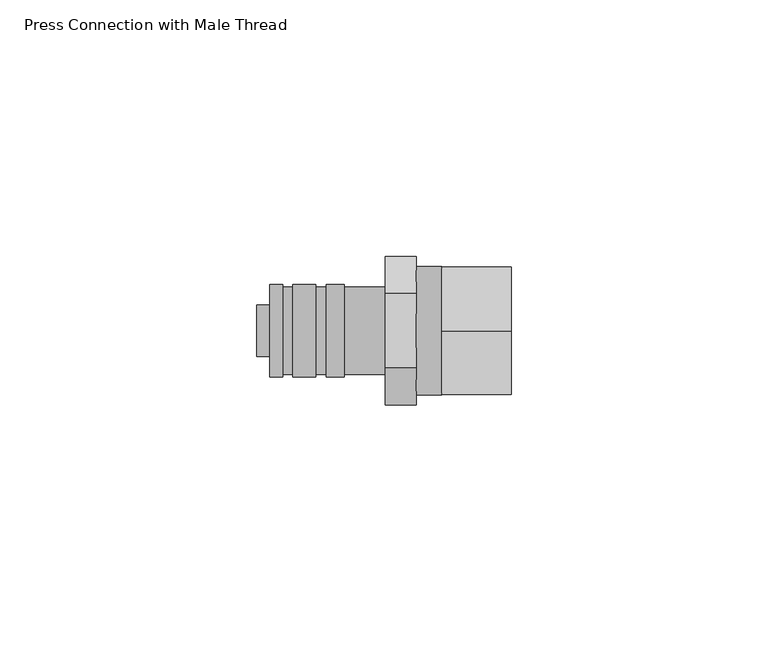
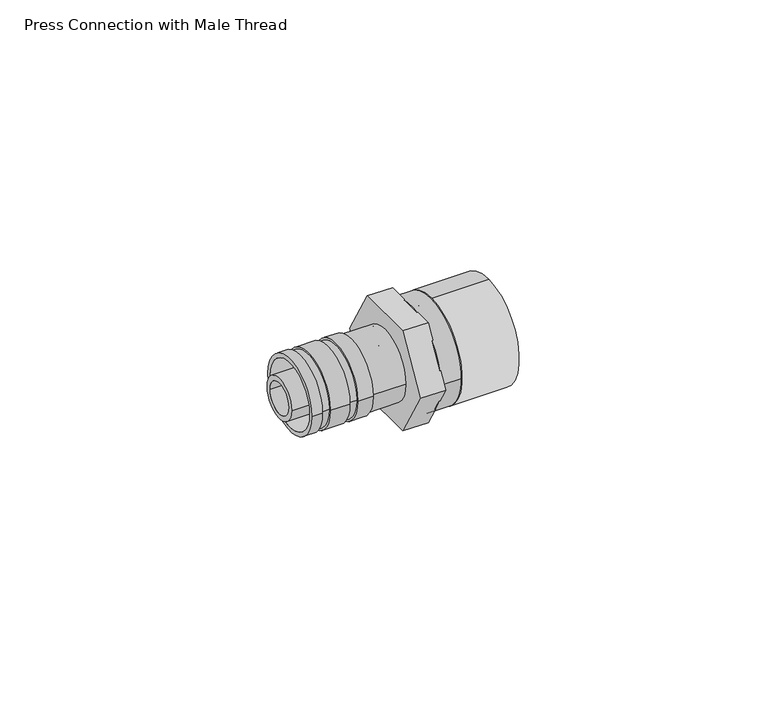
"""IFC4 building model written with IfcOpenShell, lengths in millimetres: pipe fitting geometry, Press Connection with Male Thread : Superpipe Press Connection - 16x¾” MT."""

from ifc_helpers import new_model, si_unit, point, frame, origin, origin_2d, place, context, project, spatial, polyline, circle_curve, trimmed, segment, composite_curve, outline, extrude, source, transform, mapped, element, save
from ifc_brep_helpers import plane_surface, cylinder_surface, revolved_surface, advanced_brep


def press_connection_with_male_thread_74f2f24a(model_context):
    return source(origin(), model_context, "Body", "SolidModel", [
        extrude(outline(composite_curve([segment(trimmed(circle_curve(origin_2d(), 12.5), [point((0.0, -12.5))], [point((0.0, 12.5))], False, "CARTESIAN"), True, "CONTINUOUS"), segment(trimmed(circle_curve(origin_2d(), 12.5), [point((0.0, 12.5))], [point((0.0, -12.5))], False, "CARTESIAN"), True, "CONTINUOUS")], self_intersect=False), holes=[composite_curve([segment(trimmed(circle_curve(origin_2d(), 9.0), [point((0.0, -9.0))], [point((0.0, 9.0))], True, "CARTESIAN"), True, "CONTINUOUS"), segment(trimmed(circle_curve(origin_2d(), 9.0), [point((0.0, 9.0))], [point((0.0, -9.0))], True, "CARTESIAN"), True, "CONTINUOUS")], self_intersect=False)]), frame((36.0, 0.0, 0.0), z_axis=(1.0, 0.0, 0.0), x_axis=(0.0, 1.0, 0.0)), (0.0, 0.0, 1.0), 13.5),
        advanced_brep(
        [(2.5, 9.0, 0.0), (2.5, -9.0, 0.0), (2.5, 8.0, 0.0), (2.5, -8.0, 0.0), (25.0, -8.5, 0.0), (25.0, 8.5, 0.0), (25.0, 8.0, 0.0), (25.0, -8.0, 0.0), (5.0, 9.0, 0.0), (5.0, -9.0, 0.0), (17.0, 9.0, 0.0), (17.0, -9.0, 0.0), (13.5, -9.0, 0.0), (13.5, 9.0, 0.0), (11.5, 9.0, 0.0), (11.5, -9.0, 0.0), (7.0, -9.0, 0.0), (7.0, 9.0, 0.0), (17.0, 8.5, 0.0), (17.0, -8.5, 0.0), (13.5, -8.5, 0.0), (13.5, 8.5, 0.0), (11.5, 8.5, 0.0), (11.5, -8.5, 0.0), (7.0, -8.5, 0.0), (7.0, 8.5, 0.0), (5.0, 8.5, 0.0), (5.0, -8.5, 0.0)],
        [
            (0, 1, circle_curve(frame((2.5, 0.0, 0.0), z_axis=(-1.0, 0.0, 0.0), x_axis=(0.0, -1.0, 0.0)), 9.0)),
            (1, 0, circle_curve(frame((2.5, 0.0, 0.0), z_axis=(-1.0, 0.0, 0.0), x_axis=(0.0, -1.0, 0.0)), 9.0)),
            (2, 3, circle_curve(frame((2.5, 0.0, 0.0), z_axis=(1.0, 0.0, 0.0), x_axis=(0.0, -1.0, 0.0)), 8.0)),
            (3, 2, circle_curve(frame((2.5, 0.0, 0.0), z_axis=(1.0, 0.0, 0.0), x_axis=(0.0, -1.0, 0.0)), 8.0)),
            (4, 5, circle_curve(frame((25.0, 0.0, 0.0), z_axis=(1.0, 0.0, 0.0), x_axis=(0.0, 1.0, 0.0)), 8.5)),
            (5, 4, circle_curve(frame((25.0, 0.0, 0.0), z_axis=(1.0, 0.0, 0.0), x_axis=(0.0, 1.0, 0.0)), 8.5)),
            (6, 7, circle_curve(frame((25.0, 0.0, 0.0), z_axis=(-1.0, 0.0, 0.0), x_axis=(0.0, -1.0, 0.0)), 8.0)),
            (7, 6, circle_curve(frame((25.0, 0.0, 0.0), z_axis=(-1.0, 0.0, 0.0), x_axis=(0.0, -1.0, 0.0)), 8.0)),
            (0, 8),
            (8, 9, circle_curve(frame((5.0, 0.0, 0.0), z_axis=(-1.0, 0.0, 0.0), x_axis=(0.0, -1.0, 0.0)), 9.0)),
            (9, 1),
            (10, 11, circle_curve(frame((17.0, 0.0, 0.0), z_axis=(-1.0, 0.0, 0.0), x_axis=(0.0, -1.0, 0.0)), 9.0)),
            (11, 12),
            (12, 13, circle_curve(frame((13.5, 0.0, 0.0), z_axis=(1.0, 0.0, 0.0), x_axis=(0.0, -1.0, 0.0)), 9.0)),
            (13, 10),
            (14, 15, circle_curve(frame((11.5, 0.0, 0.0), z_axis=(-1.0, 0.0, 0.0), x_axis=(0.0, -1.0, 0.0)), 9.0)),
            (15, 16),
            (16, 17, circle_curve(frame((7.0, 0.0, 0.0), z_axis=(1.0, 0.0, 0.0), x_axis=(0.0, -1.0, 0.0)), 9.0)),
            (17, 14),
            (9, 8, circle_curve(frame((5.0, 0.0, 0.0), z_axis=(-1.0, 0.0, 0.0), x_axis=(0.0, -1.0, 0.0)), 9.0)),
            (11, 10, circle_curve(frame((17.0, 0.0, 0.0), z_axis=(-1.0, 0.0, 0.0), x_axis=(0.0, -1.0, 0.0)), 9.0)),
            (13, 12, circle_curve(frame((13.5, 0.0, 0.0), z_axis=(1.0, 0.0, 0.0), x_axis=(0.0, -1.0, 0.0)), 9.0)),
            (15, 14, circle_curve(frame((11.5, 0.0, 0.0), z_axis=(-1.0, 0.0, 0.0), x_axis=(0.0, -1.0, 0.0)), 9.0)),
            (17, 16, circle_curve(frame((7.0, 0.0, 0.0), z_axis=(1.0, 0.0, 0.0), x_axis=(0.0, -1.0, 0.0)), 9.0)),
            (2, 6),
            (7, 3),
            (18, 19, circle_curve(frame((17.0, 0.0, 0.0), z_axis=(-1.0, 0.0, 0.0), x_axis=(0.0, 1.0, 0.0)), 8.5)),
            (19, 11),
            (10, 18),
            (19, 18, circle_curve(frame((17.0, 0.0, 0.0), z_axis=(-1.0, 0.0, 0.0), x_axis=(0.0, 1.0, 0.0)), 8.5)),
            (18, 5),
            (4, 19),
            (20, 21, circle_curve(frame((13.5, 0.0, 0.0), z_axis=(1.0, 0.0, 0.0), x_axis=(0.0, 1.0, 0.0)), 8.5)),
            (21, 13),
            (12, 20),
            (21, 20, circle_curve(frame((13.5, 0.0, 0.0), z_axis=(1.0, 0.0, 0.0), x_axis=(0.0, 1.0, 0.0)), 8.5)),
            (22, 23, circle_curve(frame((11.5, 0.0, 0.0), z_axis=(-1.0, 0.0, 0.0), x_axis=(0.0, 1.0, 0.0)), 8.5)),
            (23, 15),
            (14, 22),
            (23, 22, circle_curve(frame((11.5, 0.0, 0.0), z_axis=(-1.0, 0.0, 0.0), x_axis=(0.0, 1.0, 0.0)), 8.5)),
            (20, 23),
            (22, 21),
            (24, 25, circle_curve(frame((7.0, 0.0, 0.0), z_axis=(1.0, 0.0, 0.0), x_axis=(0.0, 1.0, 0.0)), 8.5)),
            (25, 17),
            (16, 24),
            (25, 24, circle_curve(frame((7.0, 0.0, 0.0), z_axis=(1.0, 0.0, 0.0), x_axis=(0.0, 1.0, 0.0)), 8.5)),
            (26, 27, circle_curve(frame((5.0, 0.0, 0.0), z_axis=(-1.0, 0.0, 0.0), x_axis=(0.0, 1.0, 0.0)), 8.5)),
            (27, 9),
            (8, 26),
            (27, 26, circle_curve(frame((5.0, 0.0, 0.0), z_axis=(-1.0, 0.0, 0.0), x_axis=(0.0, 1.0, 0.0)), 8.5)),
            (24, 27),
            (26, 25),
        ],
        [
            plane_surface(frame((2.5, -9.0, 0.0), z_axis=(-1.0, 0.0, 0.0), x_axis=(0.0, 0.0, 1.0))),
            plane_surface(frame((25.0, -9.0, 0.0), z_axis=(1.0, 0.0, 0.0), x_axis=(0.0, 0.0, -1.0))),
            cylinder_surface(frame((25.0, 0.0, 0.0), z_axis=(-1.0, 0.0, 0.0), x_axis=(0.0, -1.0, 0.0)), 9.0),
            revolved_surface(polyline([(25.0, -8.0, 0.0), (2.5, -8.0, 0.0)]), (25.0, 0.0, 0.0), (1.0, 0.0, 0.0)),
            plane_surface(frame((17.0, 0.0, 0.0), z_axis=(1.0, 0.0, 0.0), x_axis=(0.0, 1.0, 0.0))),
            cylinder_surface(frame((1987.5, 0.0, 0.0), z_axis=(-1.0, 0.0, 0.0), x_axis=(0.0, 1.0, 0.0)), 8.5),
            plane_surface(frame((13.5, 0.0, 0.0), z_axis=(-1.0, 0.0, 0.0), x_axis=(0.0, 1.0, 0.0))),
            plane_surface(frame((11.5, 0.0, 0.0), z_axis=(1.0, 0.0, 0.0), x_axis=(0.0, 1.0, 0.0))),
            plane_surface(frame((7.0, 0.0, 0.0), z_axis=(-1.0, 0.0, 0.0), x_axis=(0.0, 1.0, 0.0))),
            plane_surface(frame((5.0, 0.0, 0.0), z_axis=(1.0, 0.0, 0.0), x_axis=(0.0, 1.0, 0.0))),
        ],
        [
            (0, [[1, 2], [3, 4]]),
            (1, [[5, 6], [7, 8]]),
            (2, [[-1, 9, 10, 11]]),
            (2, [[12, 13, 14, 15]]),
            (2, [[16, 17, 18, 19]]),
            (2, [[-2, -11, 20, -9]]),
            (2, [[21, -15, 22, -13]]),
            (2, [[23, -19, 24, -17]]),
            (3, [[-3, 25, -8, 26]]),
            (3, [[-4, -26, -7, -25]]),
            (4, [[27, 28, -12, 29]]),
            (4, [[30, -29, -21, -28]]),
            (5, [[-27, 31, -5, 32]]),
            (5, [[-30, -32, -6, -31]]),
            (6, [[33, 34, -14, 35]]),
            (6, [[36, -35, -22, -34]]),
            (7, [[37, 38, -16, 39]]),
            (7, [[40, -39, -23, -38]]),
            (5, [[-33, 41, -37, 42]]),
            (5, [[-36, -42, -40, -41]]),
            (8, [[43, 44, -18, 45]]),
            (8, [[46, -45, -24, -44]]),
            (9, [[47, 48, -10, 49]]),
            (9, [[50, -49, -20, -48]]),
            (5, [[-43, 51, -47, 52]]),
            (5, [[-46, -52, -50, -51]]),
        ],
    ),
        extrude(outline(composite_curve([segment(trimmed(circle_curve(origin_2d(), 12.5), [point((-12.5, 0.0))], [point((12.5, 0.0))], False, "CARTESIAN"), True, "CONTINUOUS"), segment(trimmed(circle_curve(origin_2d(), 12.5), [point((12.5, 0.0))], [point((-12.5, 0.0))], False, "CARTESIAN"), True, "CONTINUOUS")], self_intersect=False), holes=[composite_curve([segment(trimmed(circle_curve(origin_2d(), 9.0), [point((-9.0, 0.0))], [point((9.0, 0.0))], True, "CARTESIAN"), True, "CONTINUOUS"), segment(trimmed(circle_curve(origin_2d(), 9.0), [point((9.0, 0.0))], [point((-9.0, 0.0))], True, "CARTESIAN"), True, "CONTINUOUS")], self_intersect=False)]), frame((31.0, 0.0, 0.0), z_axis=(1.0, 0.0, 0.0), x_axis=(0.0, 1.0, 0.0)), (0.0, 0.0, 1.0), 5.0),
        extrude(outline(polyline([(-14.4337567, 0.0), (-7.2168784, 12.5), (7.2168784, 12.5), (14.4337567, 0.0), (7.2168784, -12.5), (-7.2168784, -12.5), (-14.4337567, 0.0)]), holes=[composite_curve([segment(trimmed(circle_curve(origin_2d(), 3.8), [point((3.8, 0.0))], [point((-3.8, 0.0))], True, "CARTESIAN"), True, "CONTINUOUS"), segment(trimmed(circle_curve(origin_2d(), 3.8), [point((-3.8, 0.0))], [point((3.8, 0.0))], True, "CARTESIAN"), True, "CONTINUOUS")], self_intersect=False)]), frame((25.0, 0.0, 0.0), z_axis=(1.0, 0.0, 0.0), x_axis=(0.0, 1.0, 0.0)), (0.0, 0.0, 1.0), 6.0),
        extrude(outline(composite_curve([segment(trimmed(circle_curve(origin_2d(), 5.0), [point((-5.0, 0.0))], [point((5.0, 0.0))], False, "CARTESIAN"), True, "CONTINUOUS"), segment(trimmed(circle_curve(origin_2d(), 5.0), [point((5.0, 0.0))], [point((-5.0, 0.0))], False, "CARTESIAN"), True, "CONTINUOUS")], self_intersect=False), holes=[composite_curve([segment(trimmed(circle_curve(origin_2d(), 3.8), [point((3.8, 0.0))], [point((-3.8, 0.0))], True, "CARTESIAN"), True, "CONTINUOUS"), segment(trimmed(circle_curve(origin_2d(), 3.8), [point((-3.8, 0.0))], [point((3.8, 0.0))], True, "CARTESIAN"), True, "CONTINUOUS")], self_intersect=False)]), frame((0.0, 0.0, 0.0), z_axis=(1.0, 0.0, 0.0), x_axis=(0.0, 1.0, 0.0)), (0.0, 0.0, 1.0), 25.0),
    ])


if __name__ == "__main__":
    model = new_model("IFC4")
    model_context = context("Model", 3, world=origin())
    ifc_project = project(units=[si_unit("LENGTHUNIT", "METRE", prefix="MILLI")], contexts=[model_context])
    site = spatial("IfcSite", under=ifc_project)
    building = spatial("IfcBuilding", under=site)
    placement = place(None, origin())
    press_connection_with_male_thread_shape = press_connection_with_male_thread_74f2f24a(model_context)
    element("IfcPipeFitting", 1, ObjectType="Press Connection with Male Thread : Superpipe Press Connection - 16x¾” MT", at=placement, inside=building, context=model_context, shape_type="MappedRepresentation", body=[
        mapped(press_connection_with_male_thread_shape, transform((0.0, 0.0, 0.0), x_axis=(1.0, 0.0, 0.0), y_axis=(0.0, 1.0, 0.0), z_axis=(0.0, 0.0, 1.0))),
    ])
    save(model, "model.ifc")
